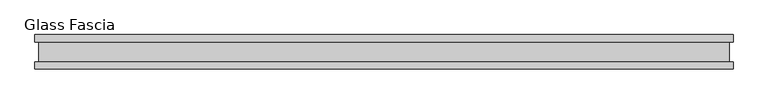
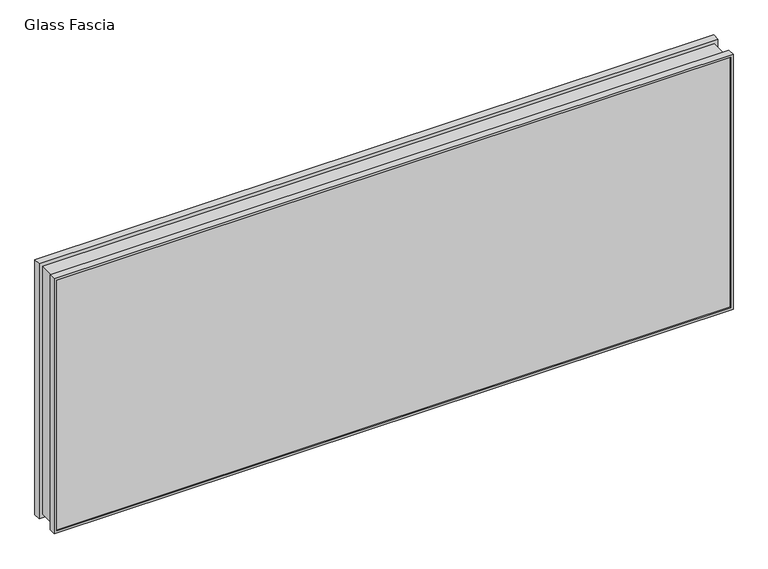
"""IFC4 building model written with IfcOpenShell, lengths in millimetres: proxy geometry, Panel-Fascia-Teknion-Altos-Glass : Glass Fascia."""

from ifc_helpers import new_model, si_unit, frame, origin, place, context, project, spatial, polyline, outline, extrude, faceted_brep, source, transform, mapped, element, save


def glass_fascia_e3078b55(model_context):
    return source(origin(), model_context, "Body", "SolidModel", [
        faceted_brep([(1012.8619976, 50.0558594, 807.593), (1012.8619976, 28.2698798, 807.593), (1012.8619976, 28.2698798, 3.175), (1012.8619976, 50.0558594, 3.175), (1005.4267898, 47.1322551, 800.1577922), (1005.4267898, 50.0558594, 800.1577922), (1005.4267898, 50.0558594, 10.6102078), (1005.4267898, 47.1322551, 10.6102078), (1010.7094713, 41.1791301, 805.4404737), (1010.7094713, 47.1322551, 805.4404737), (1010.7094713, 47.1322551, 5.3275263), (1010.7094713, 41.1791301, 5.3275263), (1010.7094713, -46.8808594, 805.4404737), (1010.7094713, -40.9277344, 805.4404737), (1010.7094713, -40.9277344, 5.3275263), (1010.7094713, -46.8808594, 5.3275263), (1005.4267898, -50.0558594, 800.1577922), (1005.4267898, -46.8808594, 800.1577922), (1005.4267898, -46.8808594, 10.6102078), (1005.4267898, -50.0558594, 10.6102078), (1012.8619976, -28.8801202, 807.593), (1012.8619976, -50.0558594, 807.593), (1012.8619976, -50.0558594, 3.175), (1012.8619976, -28.8801202, 3.175), (1002.0101563, 28.2698798, 796.7411586), (1002.0101563, -28.8801202, 796.7411586), (1002.0101563, -28.8801202, 14.0268414), (1002.0101563, 28.2698798, 14.0268414), (-1012.8619976, 28.2698798, 3.175), (-1012.8619976, 50.0558594, 3.175), (-1005.4267898, 50.0558594, 10.6102078), (-1005.4267898, 47.1322551, 10.6102078), (-1010.7094713, 47.1322551, 5.3275263), (-1010.7094713, 41.1791301, 5.3275263), (-1010.7094713, -40.9277344, 5.3275263), (-1010.7094713, -46.8808594, 5.3275263), (-1005.4267898, -46.8808594, 10.6102078), (-1005.4267898, -50.0558594, 10.6102078), (-1012.8619976, -50.0558594, 3.175), (-1012.8619976, -28.8801202, 3.175), (-1002.0101563, -28.8801202, 14.0268414), (-1002.0101563, 28.2698798, 14.0268414), (-1012.8619976, 28.2698798, 807.593), (-1012.8619976, 50.0558594, 807.593), (-1005.4267898, 50.0558594, 800.1577922), (-1005.4267898, 47.1322551, 800.1577922), (-1010.7094713, 47.1322551, 805.4404737), (-1010.7094713, 41.1791301, 805.4404737), (-1010.7094713, -40.9277344, 805.4404737), (-1010.7094713, -46.8808594, 805.4404737), (-1005.4267898, -46.8808594, 800.1577922), (-1005.4267898, -50.0558594, 800.1577922), (-1012.8619976, -50.0558594, 807.593), (-1012.8619976, -28.8801202, 807.593), (-1002.0101563, -28.8801202, 796.7411586), (-1002.0101563, 28.2698798, 796.7411586), (987.3990466, 41.1791301, 782.130049), (-987.3990466, 41.1791301, 782.130049), (-987.3990466, 41.1791301, 28.637951), (987.3990466, 41.1791301, 28.637951), (987.3990466, -40.9277344, 28.637951), (-987.3990466, -40.9277344, 28.637951), (-987.3990466, -40.9277344, 782.130049), (987.3990466, -40.9277344, 782.130049), (987.3990466, 4.7625, 782.130049), (987.3990466, 4.7625, 28.637951), (-987.3990466, 4.7625, 28.637951), (-987.3990466, 4.7625, 782.130049), (997.7177966, -4.7625, 792.448799), (997.7177966, 4.7625, 792.448799), (997.7177966, 4.7625, 18.319201), (997.7177966, -4.7625, 18.319201), (987.3990466, -4.7625, 782.130049), (987.3990466, -4.7625, 28.637951), (-997.7177966, 4.7625, 18.319201), (-997.7177966, -4.7625, 18.319201), (-987.3990466, -4.7625, 28.637951), (-997.7177966, 4.7625, 792.448799), (-997.7177966, -4.7625, 792.448799), (-987.3990466, -4.7625, 782.130049)], [[[0, 1, 2, 3]], [[4, 5, 6, 7]], [[8, 9, 10, 11]], [[12, 13, 14, 15]], [[16, 17, 18, 19]], [[20, 21, 22, 23]], [[24, 25, 26, 27]], [[3, 2, 28, 29]], [[7, 6, 30, 31]], [[11, 10, 32, 33]], [[15, 14, 34, 35]], [[19, 18, 36, 37]], [[23, 22, 38, 39]], [[27, 26, 40, 41]], [[29, 28, 42, 43]], [[31, 30, 44, 45]], [[33, 32, 46, 47]], [[35, 34, 48, 49]], [[37, 36, 50, 51]], [[39, 38, 52, 53]], [[41, 40, 54, 55]], [[43, 42, 1, 0]], [[3, 29, 43, 0], [5, 44, 30, 6]], [[45, 44, 5, 4]], [[9, 46, 32, 10], [7, 31, 45, 4]], [[47, 46, 9, 8]], [[11, 33, 47, 8], [56, 57, 58, 59]], [[13, 48, 34, 14], [60, 61, 62, 63]], [[49, 48, 13, 12]], [[15, 35, 49, 12], [17, 50, 36, 18]], [[51, 50, 17, 16]], [[21, 52, 38, 22], [19, 37, 51, 16]], [[53, 52, 21, 20]], [[23, 39, 53, 20], [25, 54, 40, 26]], [[55, 54, 25, 24]], [[1, 42, 28, 2], [27, 41, 55, 24]], [[64, 56, 59, 65]], [[65, 59, 58, 66]], [[66, 58, 57, 67]], [[67, 57, 56, 64]], [[68, 69, 70, 71]], [[63, 72, 73, 60]], [[71, 70, 74, 75]], [[60, 73, 76, 61]], [[75, 74, 77, 78]], [[61, 76, 79, 62]], [[69, 77, 74, 70], [65, 66, 67, 64]], [[78, 77, 69, 68]], [[62, 79, 72, 63]], [[71, 75, 78, 68], [72, 79, 76, 73]]]),
        extrude(outline(polyline([(1010.7094713, -40.9277344), (1010.7094713, -46.8808594), (-1010.7094713, -46.8808594), (-1010.7094713, -40.9277344), (1010.7094713, -40.9277344)])), frame((0.0, 0.0, 5.3275263), z_axis=(0.0, 0.0, 1.0), x_axis=(1.0, 0.0, 0.0)), (0.0, 0.0, 1.0), 799.618928),
        extrude(outline(polyline([(1010.7094713, 41.1791301), (-1010.7094713, 41.1791301), (-1010.7094713, 47.1322551), (1010.7094713, 47.1322551), (1010.7094713, 41.1791301)])), frame((0.0, 0.0, 5.3275263), z_axis=(0.0, 0.0, 1.0), x_axis=(1.0, 0.0, 0.0)), (0.0, 0.0, 1.0), 799.618928),
    ])


if __name__ == "__main__":
    model = new_model("IFC4")
    model_context = context("Model", 3, world=origin())
    ifc_project = project(units=[si_unit("LENGTHUNIT", "METRE", prefix="MILLI")], contexts=[model_context])
    site = spatial("IfcSite", under=ifc_project)
    building = spatial("IfcBuilding", under=site)
    placement = place(None, origin())
    glass_fascia_shape = glass_fascia_e3078b55(model_context)
    element("IfcBuildingElementProxy", 1, Name="Panel-Fascia-Teknion-Altos-Glass : Glass Fascia", ObjectType="Panel-Fascia-Teknion-Altos-Glass : Glass Fascia", at=placement, inside=building, context=model_context, shape_type="MappedRepresentation", body=[
        mapped(glass_fascia_shape, transform((0.0, 0.0, 0.0), x_axis=(1.0, 0.0, 0.0), y_axis=(0.0, 1.0, 0.0), z_axis=(0.0, 0.0, 1.0))),
    ])
    save(model, "model.ifc")
